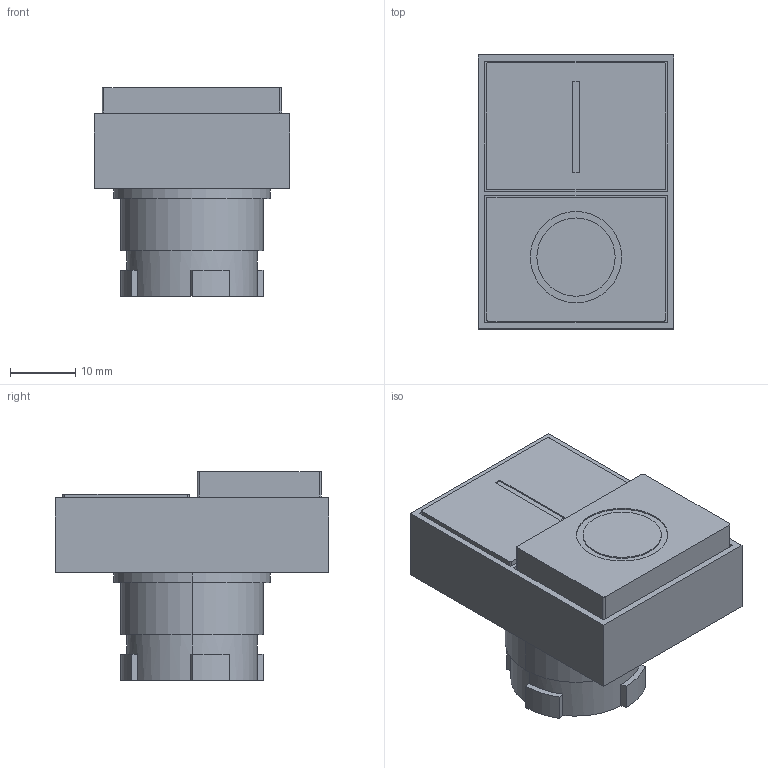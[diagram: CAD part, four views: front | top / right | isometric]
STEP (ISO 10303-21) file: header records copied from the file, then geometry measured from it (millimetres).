
FILE_DESCRIPTION (( 'STEP AP214' ), '1' );
FILE_NAME ('3D 斁麧錪 MTB2-BL84.STEP', '2017-04-19T13:17:05', ( 'adm' ), ( 'MICROSOFT' ), 'SwSTEP 2.0', 'SolidWorks 2011', '' );
FILE_SCHEMA (( 'AUTOMOTIVE_DESIGN' ));
Length unit declared in the file: millimetre
Products named in the file (1): 3D 斁麧錪 MTB2-BL84
Bounding box: 30 x 42 x 32 mm (x, y, z)
Volume: 20603.5 mm3; surface area: 8025.1 mm2
Topology: 1 solids, 3 shells, 149 faces, 374 edges, 248 vertices
Faces by surface type: plane 101, cylinder 48
Entity records: 6119 total; most frequent: DIRECTION 790, CARTESIAN_POINT 772, ORIENTED_EDGE 748, EDGE_CURVE 374, AXIS2_PLACEMENT_3D 266, VECTOR 258, LINE 258, VERTEX_POINT 248
